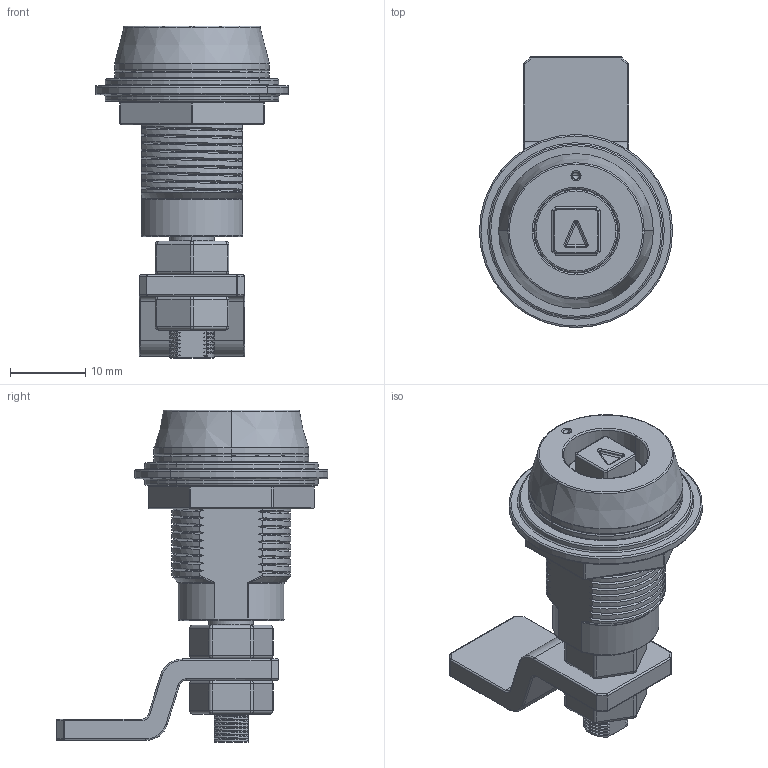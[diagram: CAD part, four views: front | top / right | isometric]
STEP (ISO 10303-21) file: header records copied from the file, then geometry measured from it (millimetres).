
FILE_DESCRIPTION (( 'STEP AP214' ), '1' );
FILE_NAME ('MS-816-3B.STEP', '2015-09-02T03:11:05', ( '' ), ( '' ), 'SwSTEP 2.0', 'SolidWorks 2010', '' );
FILE_SCHEMA (( 'AUTOMOTIVE_DESIGN' ));
Length unit declared in the file: millimetre
Products named in the file (10): Part; 螺柱; 防水膠條; 大華司; 六角螺母(大); 六角螺母(小); 擋片; B鎖芯; 主體; MS-816-3B
Assembly tree (11 placements, depth 2):
  MS-816-3B
    大華司
    Part  x2
    六角螺母(小)  x2
    螺柱
    B鎖芯
    防水膠條
    主體
    六角螺母(大)
    擋片
Bounding box: 25.6 x 36 x 44 mm (x, y, z)
Volume: 7173.4 mm3; surface area: 7847.9 mm2
Topology: 11 solids, 11 shells, 729 faces, 1832 edges, 1105 vertices
Faces by surface type: cylinder 281, bspline 199, torus 91, plane 91, sphere 62, cone 5
Entity records: 30903 total; most frequent: CARTESIAN_POINT 16593, ORIENTED_EDGE 3382, DIRECTION 2376, EDGE_CURVE 1691, VERTEX_POINT 1038, AXIS2_PLACEMENT_3D 931, EDGE_LOOP 697, ADVANCED_FACE 678
